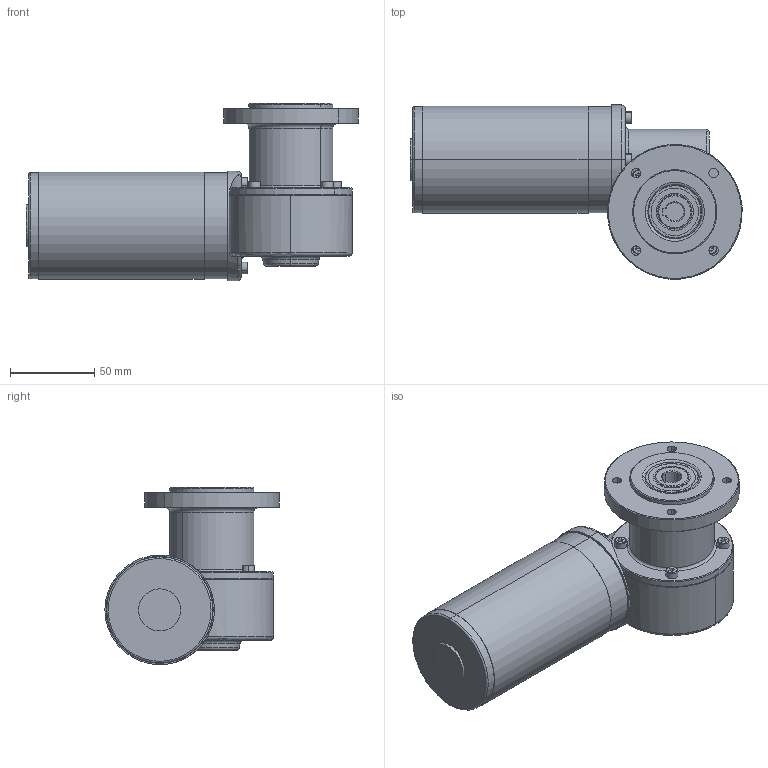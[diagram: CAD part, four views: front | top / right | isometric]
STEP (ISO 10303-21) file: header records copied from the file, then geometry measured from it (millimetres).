
FILE_DESCRIPTION (( 'STEP AP214' ), '1' );
FILE_NAME ('SN5FRH_57W_3000Upm.STEP', '2021-03-04T09:40:25', ( '' ), ( '' ), 'SwSTEP 2.0', 'SolidWorks 2019', '' );
FILE_SCHEMA (( 'AUTOMOTIVE_DESIGN' ));
Length unit declared in the file: millimetre
Products named in the file (1): SN5FRH_57W_3000Upm
Bounding box: 196.95 x 103.35 x 105.2 mm (x, y, z)
Surface area: 68969.1 mm2 (no closed solid volume)
Topology: 0 solids, 16 shells, 203 faces, 540 edges, 343 vertices
Faces by surface type: plane 72, cylinder 60, cone 50, torus 21
Entity records: 8642 total; most frequent: CARTESIAN_POINT 1276, DIRECTION 1166, ORIENTED_EDGE 917, EDGE_CURVE 530, AXIS2_PLACEMENT_3D 453, VERTEX_POINT 343, VECTOR 260, LINE 260
